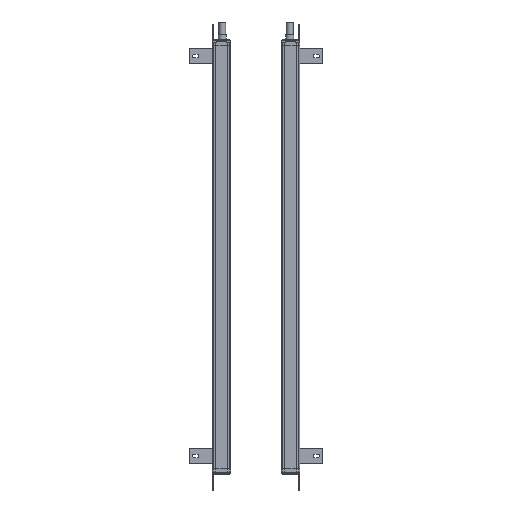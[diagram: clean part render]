
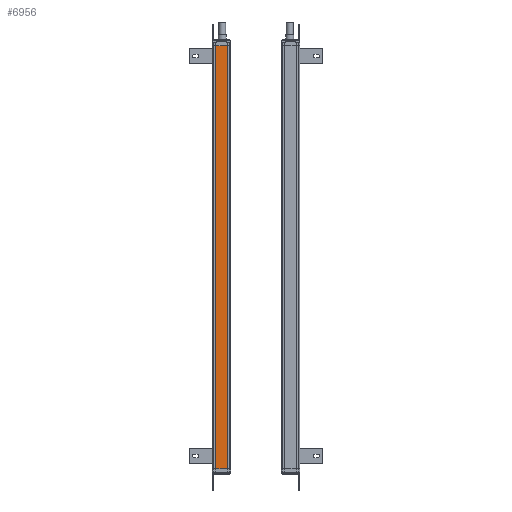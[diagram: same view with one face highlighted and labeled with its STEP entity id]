
A CAD part, left-side view. The second image highlights one B-rep face of the part: STEP entity #6956.
In plain terms, the highlighted planar face has unit normal (-1, 0, 0).
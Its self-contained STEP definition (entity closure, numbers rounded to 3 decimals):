
#953=FACE_OUTER_BOUND('',#9034,.T.);
#2188=LINE('',#33710,#4326);
#2290=LINE('',#34050,#4428);
#2291=LINE('',#34052,#4429);
#2292=LINE('',#34054,#4430);
#4326=VECTOR('',#26897,1.);
#4428=VECTOR('',#27185,1.);
#4429=VECTOR('',#27188,1.);
#4430=VECTOR('',#27189,1.);
#6178=PLANE('',#23723);
#6956=ADVANCED_FACE('',(#953),#6178,.T.);
#9034=EDGE_LOOP('',(#11681,#11682,#11683,#11684));
#11681=ORIENTED_EDGE('',*,*,#19828,.F.);
#11682=ORIENTED_EDGE('',*,*,#19829,.T.);
#11683=ORIENTED_EDGE('',*,*,#19830,.T.);
#11684=ORIENTED_EDGE('',*,*,#19658,.F.);
#17203=VERTEX_POINT('',#33709);
#17204=VERTEX_POINT('',#33711);
#17348=VERTEX_POINT('',#34049);
#17349=VERTEX_POINT('',#34053);
#19658=EDGE_CURVE('',#17203,#17204,#2188,.T.);
#19828=EDGE_CURVE('',#17348,#17203,#2290,.T.);
#19829=EDGE_CURVE('',#17348,#17349,#2291,.T.);
#19830=EDGE_CURVE('',#17349,#17204,#2292,.T.);
#23723=AXIS2_PLACEMENT_3D('',#34055,#27190,#27191);
#26897=DIRECTION('',(0.,-1.,0.));
#27185=DIRECTION('',(0.,0.,1.));
#27188=DIRECTION('',(0.,-1.,0.));
#27189=DIRECTION('',(0.,0.,1.));
#27190=DIRECTION('',(-1.,0.,0.));
#27191=DIRECTION('',(0.,-1.,0.));
#33709=CARTESIAN_POINT('',(233.846,104.141,31.645));
#33710=CARTESIAN_POINT('',(233.846,81.141,31.645));
#33711=CARTESIAN_POINT('',(233.846,81.141,31.645));
#34049=CARTESIAN_POINT('',(233.846,104.141,-783.355));
#34050=CARTESIAN_POINT('',(233.846,104.141,-155.355));
#34052=CARTESIAN_POINT('',(233.846,81.141,-783.355));
#34053=CARTESIAN_POINT('',(233.846,81.141,-783.355));
#34054=CARTESIAN_POINT('',(233.846,81.141,-155.355));
#34055=CARTESIAN_POINT('',(233.846,81.141,-50.355));
